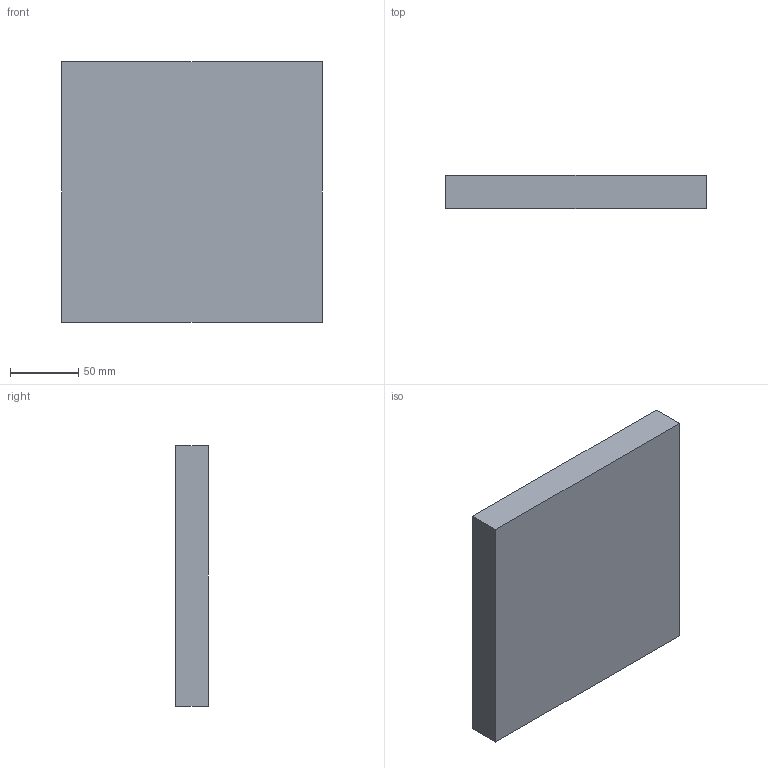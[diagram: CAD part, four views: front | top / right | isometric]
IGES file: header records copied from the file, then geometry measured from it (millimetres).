
Start section: SolidWorks IGES file using analytic representation for surfaces
Global section: file name: D:\3DS EMPRESA\ROKU-P34363-3D\ROKU-P34363-3D.IGS; native system: SolidWorks 2019; preprocessor: SolidWorks 2019; author: Carlos Corella; date: 210721.105140; units: millimetre
Bounding box: 190 x 24 x 190 mm (x, y, z)
Surface area: 91104 mm2 (no closed solid volume)
Topology: 0 solids, 0 shells, 11 faces, 48 edges, 48 vertices
Faces by surface type: bspline 11
